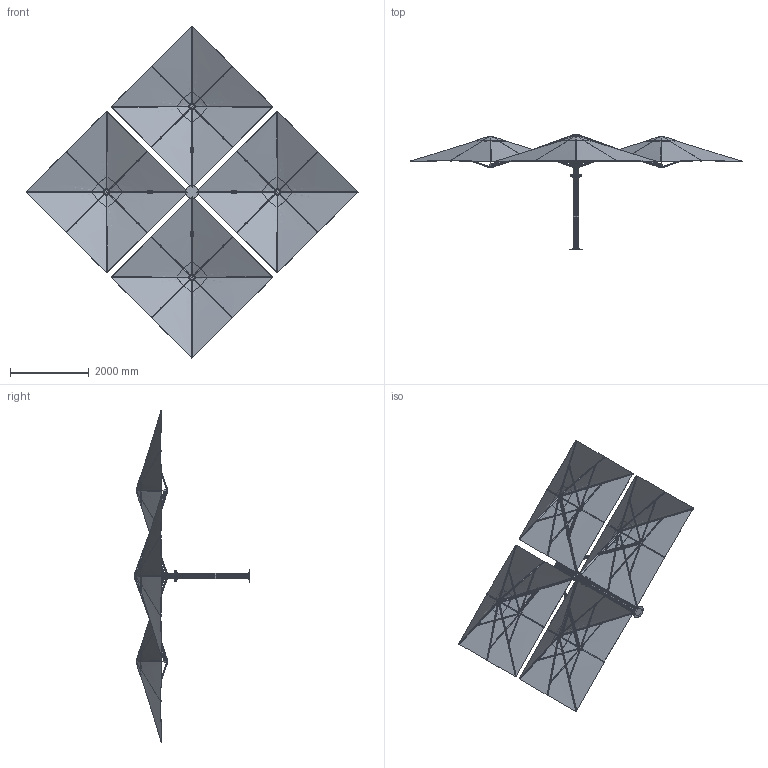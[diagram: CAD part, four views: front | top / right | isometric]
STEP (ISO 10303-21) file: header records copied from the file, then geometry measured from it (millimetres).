
FILE_DESCRIPTION (( 'STEP AP203' ), '1' );
FILE_NAME ('Unity 3M Square Quattro.STEP', '2020-06-18T23:06:46', ( '' ), ( '' ), 'SwSTEP 2.0', 'SolidWorks 2017', '' );
FILE_SCHEMA (( 'CONFIG_CONTROL_DESIGN' ));
Length unit declared in the file: millimetre
Products named in the file (51): SMP_UM - 110085; SMP_UM - 110117; socket button head cap screw_am_B18.3.4M - 5 x 0.8 x 20 SBHCS --N; SMP_UM - 110169; SMP_UM - 110126 (2); SMP_UM - 110065; Unity 3M Square Quattro; SMP_UM - 110191; SMP_UM - 110190; SMP_UM - 110187b; flat washer regular_am_B18.22M - Plain washer, 6 mm, regular; SMP_UM - 110131; SMP_UM - 110063; SMP_UM - 010263_3M SQR; UM - 210036; SMP_UM - 110089; SMP_UM - 110123; SMP_UM - 110116; SMP_UM - 110189; SMP_UM - 110080; SMP_UM - 110069; SMP_UM - 110186; SMP_UM - 110168; SMP_UM - 110096_PD; SMP_UM - 110088; SMP_UM - 110064; SMP_UM - 110170; SMP_UM - 110070; socket button head cap screw_am_B18.3.4M - 5 x 0.8 x 16 SBHCS --N; SMP_Um - 110192; SMP_UM - 110204; SMP_UM - 110066; SMP_UM - 110079; SMP_UM - 010020_Canopy Only - Open; SMP_UM - 110110; SMP_UM - 110313_Default<As Machined>; SMP_UM - 110092; SMP_UM - 210043 - Gastec Spring_Extended; SMP_UM - 110098; SMP_UM - 110172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
Assembly tree (77 placements, depth 4):
  Unity 3M Square Quattro
    SMP_UM - 110116
      SMP_UM - 110112_ALL HOLES
    SMP_UM - 110123
      SMP_UM - 110313_Default<As Machined>
    SMP_UM - 110222
    SMP_UM - 110126 (2)
    SMP_UM - 010020_Canopy Only - Open  x4
      SMP_UM - 110169
        SMP_UM - 110186
        SMP_UM - 110080  x2
      SMP_UM - 110170
        SMP_UM - 110187b
        SMP_UM - 110187
        SMP_UM - 110084
        socket button head cap screw_am_B18.3.4M - 5 x 0.8 x 16 SBHCS --N
        UM - 210036
        SMP_UM - 110085  x2
      SMP_UM - 110064
        SMP_UM - 110092
      SMP_UM - 110063
        SMP_UM - 110092
        SMP_UM - 110093
        SMP_UM - 110094
        SMP_UM - 110110
      SMP_UM - 110171
        SMP_UM - 110189
        SMP_UM - 110089
        SMP_UM - 110088
        flat washer regular_am_B18.22M - Plain washer, 6 mm, regular
        socket button head cap screw_am_B18.3.4M - 5 x 0.8 x 20 SBHCS --N
        SMP_UM - 110131
      SMP_UM - 110204
        SMP_UM - 110190
        SMP_UM - 110089  x2
      SMP_UM - 110066
        SMP_UM - 110098
        SMP_UM - 110075
        SMP_UM - 110096_PD
        SMP_UM - 110102_Stretched
      SMP_UM - 210043 - Gastec Spring_Extended
      SMP_UM - 110205
        SMP_UM - 110191
        SMP_UM - 110089
        SMP_UM - 210019
        SMP_UM - 110088
        flat washer regular_am_B18.22M - Plain washer, 6 mm, regular
        socket button head cap screw_am_B18.3.4M - 5 x 0.8 x 20 SBHCS --N
        SMP_UM - 110131
      SMP_UM - 110172
        SMP_Um - 110192
        SMP_UM - 110089  x2
      SMP_UM - 110168
        SMP_UM - 110075
        SMP_UM - 110079
      SMP_UM - 010263_3M SQR
    SMP_UM - 110117
    SMP_UM - 110065  x2
      SMP_UM - 110070
      SMP_UM - 110069
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Bounding box: 8412.11 x 2932.5 x 8412.11 mm (x, y, z)
Volume: 135884636.1 mm3; surface area: 90048439.9 mm2
Topology: 373 solids, 381 shells, 7200 faces, 17470 edges, 11054 vertices
Faces by surface type: plane 2314, cylinder 2144, bspline 1292, cone 1032, torus 322, sphere 96
Entity records: 74529 total; most frequent: CARTESIAN_POINT 44899, ORIENTED_EDGE 5258, DIRECTION 4465, EDGE_CURVE 2629, AXIS2_PLACEMENT_3D 1764, VERTEX_POINT 1636, EDGE_LOOP 1123, ADVANCED_FACE 1082
